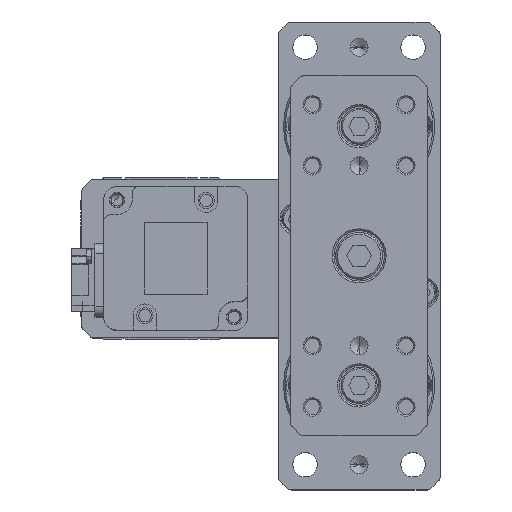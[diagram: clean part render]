
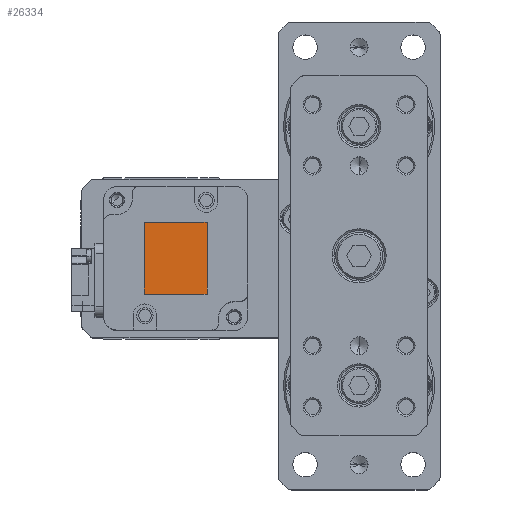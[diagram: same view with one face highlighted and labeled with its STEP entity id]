
A CAD part, top view. The second image highlights one B-rep face of the part: STEP entity #26334.
In plain terms, the highlighted planar face has unit normal (0, 0, 1) as drawn and (0, 0, -1) by its records, which use the part's own axes.
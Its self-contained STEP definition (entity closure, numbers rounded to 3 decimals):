
#191 = VERTEX_POINT ( 'NONE', #34906 ) ;
#4296 = CARTESIAN_POINT ( 'NONE',  ( 0., 0., -82.6 ) ) ;
#7333 = ORIENTED_EDGE ( 'NONE', *, *, #27585, .T. ) ;
#7624 = DIRECTION ( 'NONE',  ( -1., 0., 0. ) ) ;
#7961 = ORIENTED_EDGE ( 'NONE', *, *, #28875, .T. ) ;
#9703 = LINE ( 'NONE', #15960, #24214 ) ;
#9818 = VECTOR ( 'NONE', #24505, 1000. ) ;
#10966 = DIRECTION ( 'NONE',  ( 1., 0., 0. ) ) ;
#12347 = CARTESIAN_POINT ( 'NONE',  ( -10., 8.75, -82.6 ) ) ;
#12784 = DIRECTION ( 'NONE',  ( 0., -1., 0. ) ) ;
#13605 = AXIS2_PLACEMENT_3D ( 'NONE', #4296, #30864, #10966 ) ;
#14331 = VERTEX_POINT ( 'NONE', #37997 ) ;
#14561 = VERTEX_POINT ( 'NONE', #19360 ) ;
#15960 = CARTESIAN_POINT ( 'NONE',  ( 10., -8.75, -82.6 ) ) ;
#18619 = LINE ( 'NONE', #31204, #9818 ) ;
#18750 = EDGE_CURVE ( 'NONE', #191, #42627, #28943, .T. ) ;
#18858 = DIRECTION ( 'NONE',  ( 0., 1., 0. ) ) ;
#19209 = LINE ( 'NONE', #30846, #25971 ) ;
#19360 = CARTESIAN_POINT ( 'NONE',  ( 10., 8.75, -82.6 ) ) ;
#22199 = CARTESIAN_POINT ( 'NONE',  ( -10., 8.75, -82.6 ) ) ;
#24214 = VECTOR ( 'NONE', #12784, 1000. ) ;
#24505 = DIRECTION ( 'NONE',  ( 1., 0., 0. ) ) ;
#25645 = EDGE_LOOP ( 'NONE', ( #36337, #7333, #7961, #38560 ) ) ;
#25971 = VECTOR ( 'NONE', #7624, 1000. ) ;
#26334 = ADVANCED_FACE ( 'NONE', ( #30898 ), #27498, .F. ) ;
#27498 = PLANE ( 'NONE',  #13605 ) ;
#27585 = EDGE_CURVE ( 'NONE', #42627, #14561, #18619, .T. ) ;
#27900 = VECTOR ( 'NONE', #18858, 1000. ) ;
#28875 = EDGE_CURVE ( 'NONE', #14561, #14331, #9703, .T. ) ;
#28943 = LINE ( 'NONE', #12347, #27900 ) ;
#30846 = CARTESIAN_POINT ( 'NONE',  ( -10., -8.75, -82.6 ) ) ;
#30864 = DIRECTION ( 'NONE',  ( 0., 0., 1. ) ) ;
#30898 = FACE_OUTER_BOUND ( 'NONE', #25645, .T. ) ;
#31204 = CARTESIAN_POINT ( 'NONE',  ( 10., 8.75, -82.6 ) ) ;
#33047 = EDGE_CURVE ( 'NONE', #14331, #191, #19209, .T. ) ;
#34906 = CARTESIAN_POINT ( 'NONE',  ( -10., -8.75, -82.6 ) ) ;
#36337 = ORIENTED_EDGE ( 'NONE', *, *, #18750, .T. ) ;
#37997 = CARTESIAN_POINT ( 'NONE',  ( 10., -8.75, -82.6 ) ) ;
#38560 = ORIENTED_EDGE ( 'NONE', *, *, #33047, .T. ) ;
#42627 = VERTEX_POINT ( 'NONE', #22199 ) ;
